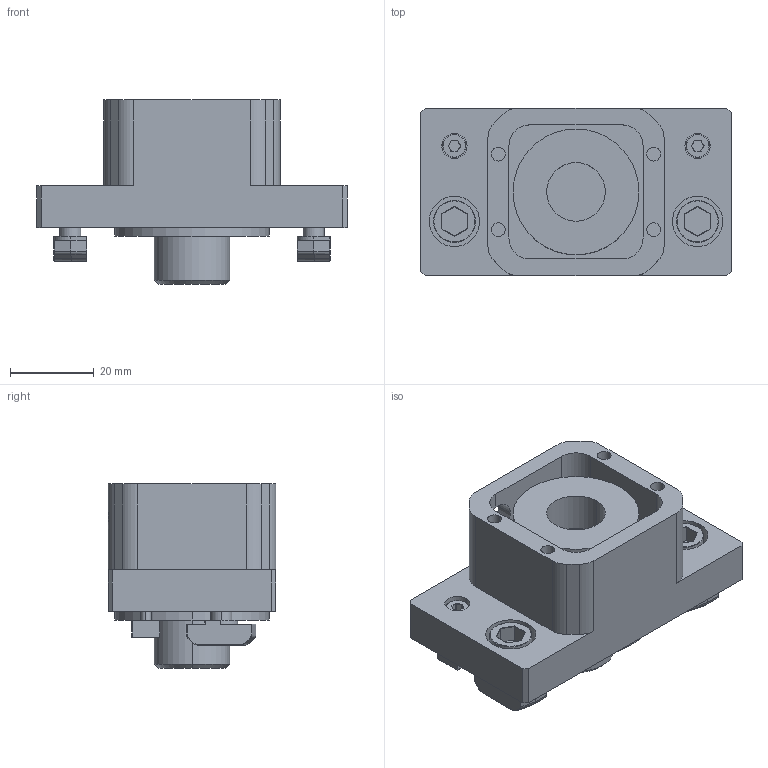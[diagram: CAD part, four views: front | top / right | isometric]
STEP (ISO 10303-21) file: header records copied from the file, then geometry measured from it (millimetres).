
FILE_DESCRIPTION((''),'2;1');
FILE_NAME('CK-46-X_ASM','2017-03-15T',('Owner'),(''),'PRO/ENGINEER BY PARAMETRIC TECHNOLOGY CORPORATION, 2009440','PRO/ENGINEER BY PARAMETRIC TECHNOLOGY CORPORATION, 2009440','');
FILE_SCHEMA(('CONFIG_CONTROL_DESIGN'));
Length unit declared in the file: millimetre
Products named in the file (6): CK-46-14; M6X10_COUNTERSINK; M3X10_COUNTERSINK; SN-M3; TN-M6; CK-46-X_ASM
Assembly tree (9 placements, depth 2):
  CK-46-X_ASM
    CK-46-14
    M6X10_COUNTERSINK  x2
    M3X10_COUNTERSINK  x2
    SN-M3  x2
    TN-M6  x2
Bounding box: 74 x 40 x 44 mm (x, y, z)
Volume: 57403.4 mm3; surface area: 21584.6 mm2
Topology: 9 solids, 9 shells, 411 faces, 960 edges, 586 vertices
Faces by surface type: cylinder 172, plane 153, cone 42, torus 20, bspline 12, sphere 12
Entity records: 7677 total; most frequent: CARTESIAN_POINT 1718, DIRECTION 1276, ORIENTED_EDGE 1168, EDGE_CURVE 584, AXIS2_PLACEMENT_3D 476, VERTEX_POINT 362, VECTOR 324, LINE 324
